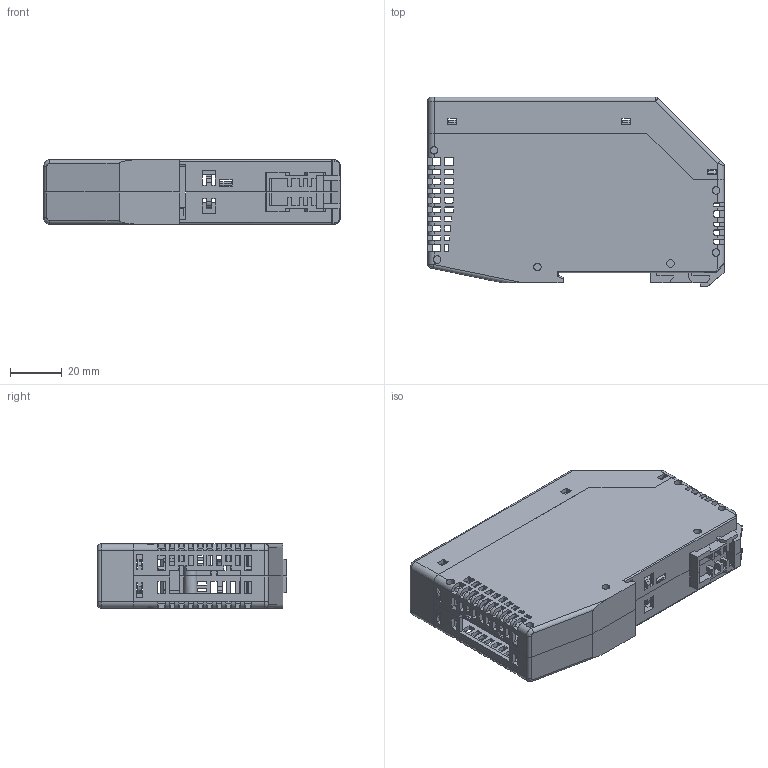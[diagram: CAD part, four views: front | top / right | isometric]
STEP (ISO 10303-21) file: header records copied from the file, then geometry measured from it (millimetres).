
FILE_DESCRIPTION (( 'STEP AP214' ), '1' );
FILE_NAME ('DF100-001-13-00A(H)-2023-05.30蜊耀源偶.STEP', '2023-05-30T03:50:20', ( '' ), ( '' ), 'SwSTEP 2.0', 'SolidWorks 2015', '' );
FILE_SCHEMA (( 'AUTOMOTIVE_DESIGN' ));
Length unit declared in the file: millimetre
Products named in the file (4): 奻裔4.12; 狟褲-2(4.12); 狟褲-1(4.12); DF100-001-13-00A(H)-2023-05.30蜊耀源偶
Assembly tree (3 placements, depth 2):
  DF100-001-13-00A(H)-2023-05.30蜊耀源偶
    奻裔4.12
    狟褲-1(4.12)
    狟褲-2(4.12)
Bounding box: 115 x 73.5 x 25 mm (x, y, z)
Volume: 36405.9 mm3; surface area: 50775 mm2
Topology: 3 solids, 3 shells, 1911 faces, 5541 edges, 3569 vertices
Faces by surface type: plane 1176, cylinder 458, bspline 243, cone 34
Entity records: 73546 total; most frequent: CARTESIAN_POINT 22911, ORIENTED_EDGE 11030, DIRECTION 9324, EDGE_CURVE 5515, VECTOR 4006, LINE 4006, VERTEX_POINT 3569, AXIS2_PLACEMENT_3D 2659
